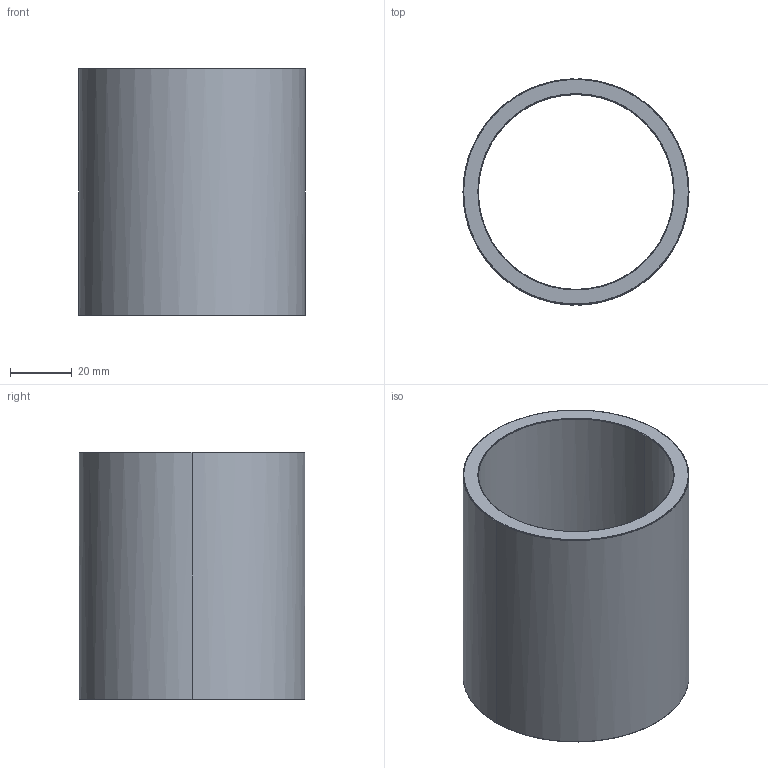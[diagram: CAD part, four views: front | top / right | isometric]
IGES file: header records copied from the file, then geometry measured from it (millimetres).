
Start section: Write IGES format                                    datakit 2008 (c)
Global section: file name: Unknown; native system: DATAKIT Converter; preprocessor: Unknown; author: Unknown; organization: Unknown; date: 950613.180003; units: millimetre
Bounding box: 73 x 72.92 x 80 mm (x, y, z)
Surface area: 36216.7 mm2 (no closed solid volume)
Topology: 0 solids, 0 shells, 14 faces, 56 edges, 56 vertices
Faces by surface type: revolution 12, bspline 2
